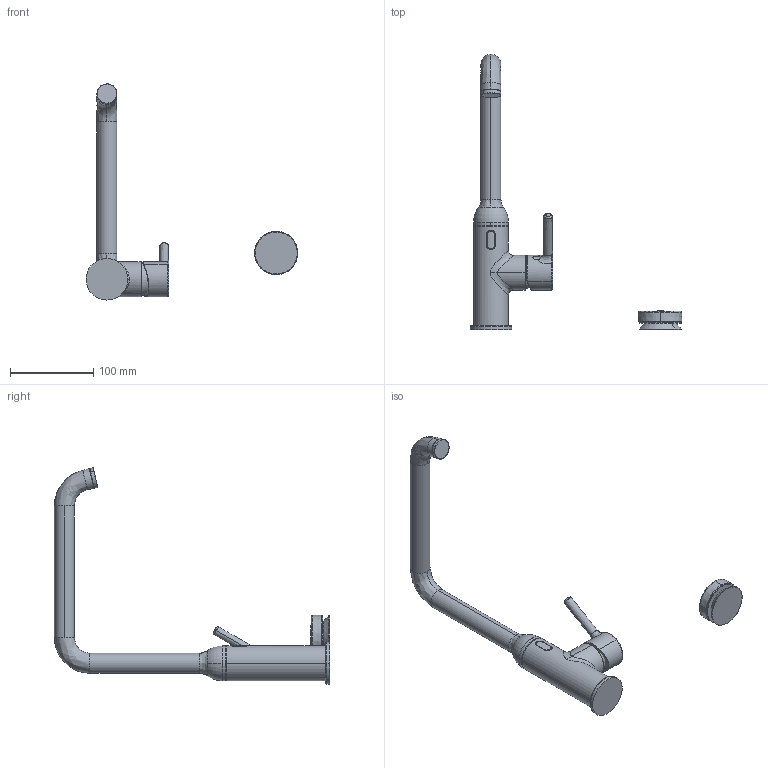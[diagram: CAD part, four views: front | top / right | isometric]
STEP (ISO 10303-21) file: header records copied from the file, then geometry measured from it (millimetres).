
FILE_DESCRIPTION (( 'STEP AP203' ), '1' );
FILE_NAME ('2639FHTZ(2023).STEP', '2024-01-24T05:20:45', ( '' ), ( '' ), 'SwSTEP 2.0', 'SolidWorks 2016', '' );
FILE_SCHEMA (( 'CONFIG_CONTROL_DESIGN' ));
Length unit declared in the file: millimetre
Products named in the file (1): 2639FHTZ(2023)
Bounding box: 253.92 x 329.9 x 259.19 mm (x, y, z)
Volume: 527518 mm3; surface area: 90742.9 mm2
Topology: 10 solids, 10 shells, 145 faces, 318 edges, 200 vertices
Faces by surface type: bspline 53, cylinder 42, plane 28, torus 16, cone 4, sphere 2
Entity records: 11410 total; most frequent: CARTESIAN_POINT 8475, ORIENTED_EDGE 636, DIRECTION 523, EDGE_CURVE 318, AXIS2_PLACEMENT_3D 233, VERTEX_POINT 200, EDGE_LOOP 152, ADVANCED_FACE 145
